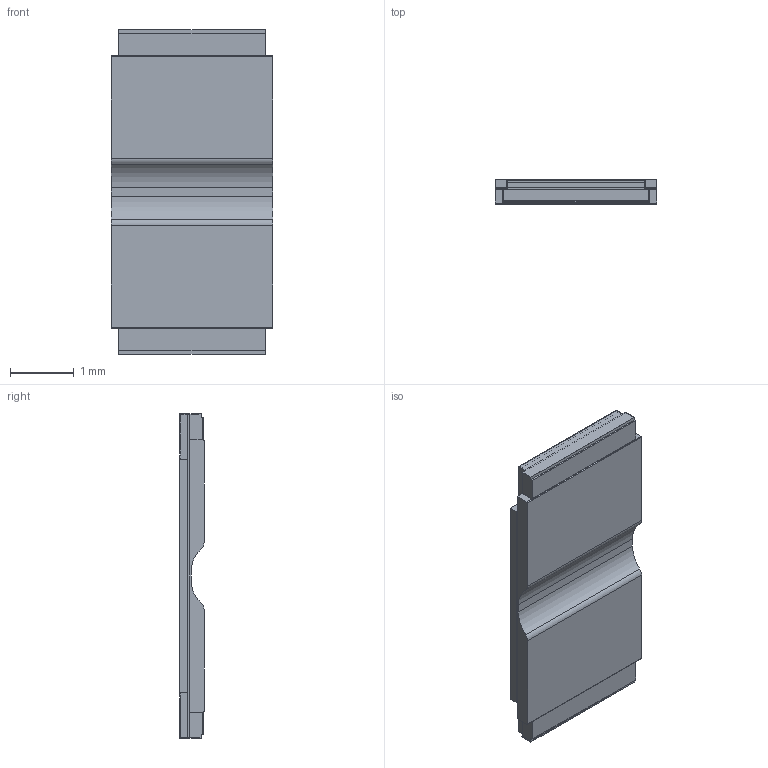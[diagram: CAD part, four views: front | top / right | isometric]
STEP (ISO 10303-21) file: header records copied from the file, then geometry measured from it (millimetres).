
FILE_DESCRIPTION (( 'STEP AP214' ), '1' );
FILE_NAME ('Assembly 2010 s457 solder-noboard - AJ.STEP', '2023-05-03T21:14:34', ( '' ), ( '' ), 'SwSTEP 2.0', 'SolidWorks 2022', '' );
FILE_SCHEMA (( 'AUTOMOTIVE_DESIGN' ));
Length unit declared in the file: inch
Products named in the file (9): 2010Manganin s457-24; 2010Copper Heat Sinks 2010 - AJ; 2010Pyralux 2010; 2010Tin PlatingS; 2010 Resistor Coverlay 001-AJ; 2010 Copper Coverlay 001-AJ; 2010Nickel Plating; 2010Copper Terminals 2010; Assembly 2010 s457 solder-noboard - AJ
Assembly tree (10 placements, depth 2):
  Assembly 2010 s457 solder-noboard - AJ
    2010Manganin s457-24
    2010Copper Terminals 2010
    2010Nickel Plating  x2
    2010Tin PlatingS  x2
    2010 Copper Coverlay 001-AJ
    2010 Resistor Coverlay 001-AJ
    2010Copper Heat Sinks 2010 - AJ
    2010Pyralux 2010
Bounding box: 2.54 x 0.38 x 5.11 mm (x, y, z)
Surface area: 146.4 mm2
Topology: 12 solids, 12 shells, 244 faces, 654 edges, 434 vertices
Faces by surface type: plane 204, cylinder 40
Entity records: 6254 total; most frequent: CARTESIAN_POINT 1033, ORIENTED_EDGE 1000, DIRECTION 982, EDGE_CURVE 500, LINE 420, VECTOR 420, VERTEX_POINT 332, AXIS2_PLACEMENT_3D 281
